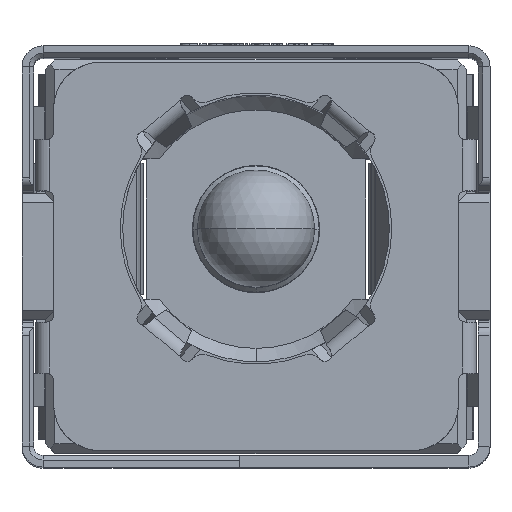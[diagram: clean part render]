
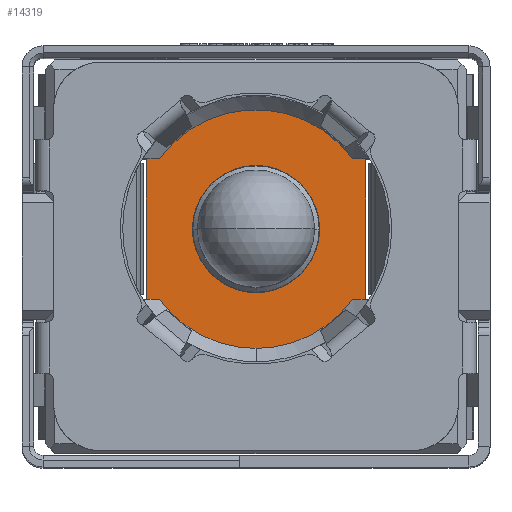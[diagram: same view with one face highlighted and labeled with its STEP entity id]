
A CAD part, top view. The second image highlights one B-rep face of the part: STEP entity #14319.
In plain terms, the highlighted planar face has unit normal (0, 0, 1).
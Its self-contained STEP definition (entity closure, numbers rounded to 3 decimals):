
#464 = CARTESIAN_POINT ( 'NONE',  ( 2.062, -1.5, 5.7 ) ) ;
#521 = FACE_OUTER_BOUND ( 'NONE', #17354, .T. ) ;
#1120 = VECTOR ( 'NONE', #6261, 1000. ) ;
#1970 = CARTESIAN_POINT ( 'NONE',  ( -2.062, 1.5, 5.7 ) ) ;
#2438 = CARTESIAN_POINT ( 'NONE',  ( 2.062, 1.5, 5.7 ) ) ;
#2570 = VERTEX_POINT ( 'NONE', #12533 ) ;
#3040 = VECTOR ( 'NONE', #33590, 1000. ) ;
#3071 = CARTESIAN_POINT ( 'NONE',  ( 2.35, 1.5, 5.7 ) ) ;
#3245 = LINE ( 'NONE', #464, #38240 ) ;
#3468 = AXIS2_PLACEMENT_3D ( 'NONE', #23306, #32487, #14885 ) ;
#4874 = DIRECTION ( 'NONE',  ( 0., 0., 1. ) ) ;
#5085 = ORIENTED_EDGE ( 'NONE', *, *, #37516, .T. ) ;
#5557 = ORIENTED_EDGE ( 'NONE', *, *, #22699, .F. ) ;
#5842 = EDGE_CURVE ( 'NONE', #17019, #19248, #35380, .T. ) ;
#5924 = VECTOR ( 'NONE', #20565, 1000. ) ;
#6261 = DIRECTION ( 'NONE',  ( 1., 0., 0. ) ) ;
#6527 = CARTESIAN_POINT ( 'NONE',  ( -2.35, -1.5, 5.7 ) ) ;
#6529 = DIRECTION ( 'NONE',  ( 0., -1., 0. ) ) ;
#7117 = VECTOR ( 'NONE', #31903, 1000. ) ;
#7651 = VERTEX_POINT ( 'NONE', #14029 ) ;
#7895 = LINE ( 'NONE', #10509, #7117 ) ;
#8279 = ORIENTED_EDGE ( 'NONE', *, *, #28302, .F. ) ;
#9066 = DIRECTION ( 'NONE',  ( 1., 0., 0. ) ) ;
#9544 = DIRECTION ( 'NONE',  ( 0., 0., -1. ) ) ;
#9907 = ORIENTED_EDGE ( 'NONE', *, *, #5842, .F. ) ;
#10105 = ORIENTED_EDGE ( 'NONE', *, *, #25883, .T. ) ;
#10165 = DIRECTION ( 'NONE',  ( 0., 0., -1. ) ) ;
#10509 = CARTESIAN_POINT ( 'NONE',  ( 2.35, 1.5, 5.7 ) ) ;
#10955 = CIRCLE ( 'NONE', #14796, 1.36 ) ;
#11551 = CARTESIAN_POINT ( 'NONE',  ( 2.35, -1.5, 5.7 ) ) ;
#12533 = CARTESIAN_POINT ( 'NONE',  ( 0., 1.36, 5.7 ) ) ;
#12843 = DIRECTION ( 'NONE',  ( 0.809, -0.588, 0. ) ) ;
#12919 = DIRECTION ( 'NONE',  ( 0.809, -0.588, 0. ) ) ;
#12963 = CARTESIAN_POINT ( 'NONE',  ( -2.35, -1.5, 5.7 ) ) ;
#13971 = AXIS2_PLACEMENT_3D ( 'NONE', #30657, #15849, #12843 ) ;
#14029 = CARTESIAN_POINT ( 'NONE',  ( 0., -1.36, 5.7 ) ) ;
#14319 = ADVANCED_FACE ( 'NONE', ( #521, #19686 ), #38304, .T. ) ;
#14322 = EDGE_CURVE ( 'NONE', #37958, #31794, #7895, .T. ) ;
#14796 = AXIS2_PLACEMENT_3D ( 'NONE', #22373, #10165, #22183 ) ;
#14885 = DIRECTION ( 'NONE',  ( -0.809, 0.588, 0. ) ) ;
#14913 = ORIENTED_EDGE ( 'NONE', *, *, #32945, .T. ) ;
#14994 = CARTESIAN_POINT ( 'NONE',  ( -2.062, 1.5, 5.7 ) ) ;
#15480 = CARTESIAN_POINT ( 'NONE',  ( 2.062, -1.5, 5.7 ) ) ;
#15849 = DIRECTION ( 'NONE',  ( 0., 0., -1. ) ) ;
#16281 = AXIS2_PLACEMENT_3D ( 'NONE', #36555, #9544, #6529 ) ;
#17019 = VERTEX_POINT ( 'NONE', #1970 ) ;
#17241 = EDGE_CURVE ( 'NONE', #2570, #7651, #10955, .T. ) ;
#17354 = EDGE_LOOP ( 'NONE', ( #5085, #26739, #10105, #5557, #8279, #17767, #18946, #14913, #9907 ) ) ;
#17752 = ORIENTED_EDGE ( 'NONE', *, *, #38911, .T. ) ;
#17767 = ORIENTED_EDGE ( 'NONE', *, *, #26806, .T. ) ;
#17888 = VERTEX_POINT ( 'NONE', #15480 ) ;
#18656 = VERTEX_POINT ( 'NONE', #6527 ) ;
#18946 = ORIENTED_EDGE ( 'NONE', *, *, #14322, .F. ) ;
#19248 = VERTEX_POINT ( 'NONE', #2438 ) ;
#19686 = FACE_BOUND ( 'NONE', #29798, .T. ) ;
#19880 = DIRECTION ( 'NONE',  ( 1., 0., 0. ) ) ;
#20565 = DIRECTION ( 'NONE',  ( -1., 0., 0. ) ) ;
#21283 = ORIENTED_EDGE ( 'NONE', *, *, #17241, .T. ) ;
#21380 = LINE ( 'NONE', #33577, #5924 ) ;
#22183 = DIRECTION ( 'NONE',  ( 0., 1., 0. ) ) ;
#22373 = CARTESIAN_POINT ( 'NONE',  ( 0., 0., 5.7 ) ) ;
#22699 = EDGE_CURVE ( 'NONE', #33089, #29046, #23894, .T. ) ;
#22724 = CARTESIAN_POINT ( 'NONE',  ( 0., 0., 5.7 ) ) ;
#23306 = CARTESIAN_POINT ( 'NONE',  ( 0., 0., 5.7 ) ) ;
#23894 = CIRCLE ( 'NONE', #34741, 2.55 ) ;
#24006 = LINE ( 'NONE', #14994, #38545 ) ;
#24921 = CARTESIAN_POINT ( 'NONE',  ( -2.35, 1.5, 5.7 ) ) ;
#25710 = CARTESIAN_POINT ( 'NONE',  ( -2.062, -1.5, 5.7 ) ) ;
#25762 = CARTESIAN_POINT ( 'NONE',  ( 0., -2.55, 5.7 ) ) ;
#25883 = EDGE_CURVE ( 'NONE', #18656, #29046, #27096, .T. ) ;
#25900 = CIRCLE ( 'NONE', #16281, 1.36 ) ;
#26298 = EDGE_CURVE ( 'NONE', #18656, #29143, #37399, .T. ) ;
#26739 = ORIENTED_EDGE ( 'NONE', *, *, #26298, .F. ) ;
#26806 = EDGE_CURVE ( 'NONE', #17888, #31794, #3245, .T. ) ;
#27096 = LINE ( 'NONE', #39307, #1120 ) ;
#28302 = EDGE_CURVE ( 'NONE', #17888, #33089, #38900, .T. ) ;
#29046 = VERTEX_POINT ( 'NONE', #25710 ) ;
#29143 = VERTEX_POINT ( 'NONE', #24921 ) ;
#29798 = EDGE_LOOP ( 'NONE', ( #17752, #21283 ) ) ;
#30657 = CARTESIAN_POINT ( 'NONE',  ( 0., 0., 5.7 ) ) ;
#30790 = DIRECTION ( 'NONE',  ( -1., 0., 0. ) ) ;
#31730 = DIRECTION ( 'NONE',  ( 0., 0., -1. ) ) ;
#31794 = VERTEX_POINT ( 'NONE', #11551 ) ;
#31903 = DIRECTION ( 'NONE',  ( 0., -1., 0. ) ) ;
#32487 = DIRECTION ( 'NONE',  ( 0., 0., -1. ) ) ;
#32578 = AXIS2_PLACEMENT_3D ( 'NONE', #22724, #4874, #19880 ) ;
#32945 = EDGE_CURVE ( 'NONE', #37958, #19248, #21380, .T. ) ;
#33089 = VERTEX_POINT ( 'NONE', #25762 ) ;
#33577 = CARTESIAN_POINT ( 'NONE',  ( 2.35, 1.5, 5.7 ) ) ;
#33590 = DIRECTION ( 'NONE',  ( 0., 1., 0. ) ) ;
#34741 = AXIS2_PLACEMENT_3D ( 'NONE', #34921, #31730, #12919 ) ;
#34921 = CARTESIAN_POINT ( 'NONE',  ( 0., 0., 5.7 ) ) ;
#35380 = CIRCLE ( 'NONE', #3468, 2.55 ) ;
#36555 = CARTESIAN_POINT ( 'NONE',  ( 0., 0., 5.7 ) ) ;
#37399 = LINE ( 'NONE', #12963, #3040 ) ;
#37516 = EDGE_CURVE ( 'NONE', #17019, #29143, #24006, .T. ) ;
#37958 = VERTEX_POINT ( 'NONE', #3071 ) ;
#38240 = VECTOR ( 'NONE', #9066, 1000. ) ;
#38304 = PLANE ( 'NONE',  #32578 ) ;
#38545 = VECTOR ( 'NONE', #30790, 1000. ) ;
#38900 = CIRCLE ( 'NONE', #13971, 2.55 ) ;
#38911 = EDGE_CURVE ( 'NONE', #7651, #2570, #25900, .T. ) ;
#39307 = CARTESIAN_POINT ( 'NONE',  ( -2.35, -1.5, 5.7 ) ) ;
